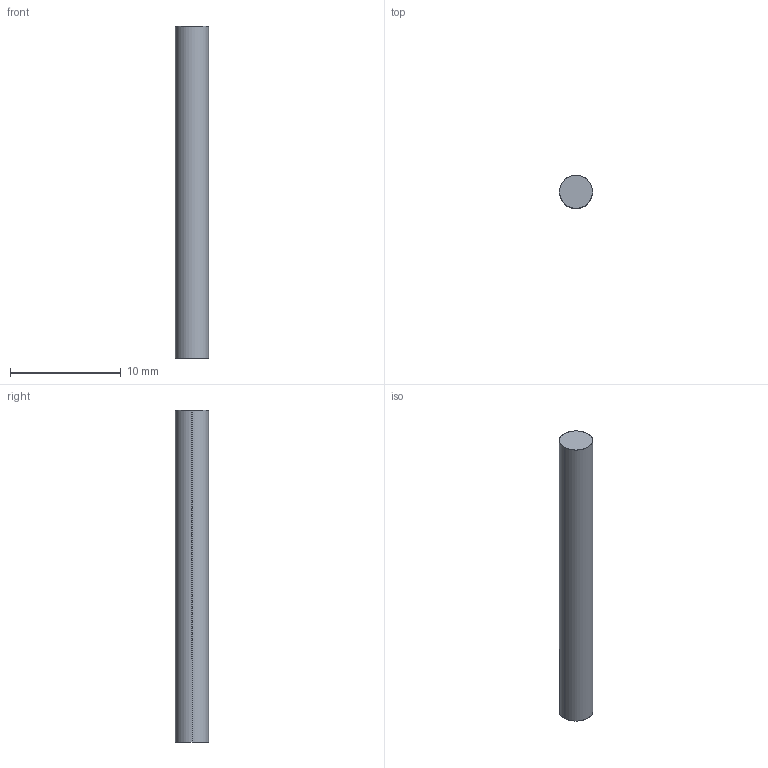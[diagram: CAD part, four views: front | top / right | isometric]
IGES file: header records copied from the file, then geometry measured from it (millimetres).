
Start section: SolidWorks IGES file using analytic representation for surfaces
Global section: file name: C:\Users\AndreBernot\Downloads\K-RACER-L_3D_SW\K-RACER-L_3D_SW\IGS\Axe avant RACER-L.IGS; native system: SolidWorks 2015; preprocessor: SolidWorks 2015; author: AndreBernot; date: 170922.150815; units: millimetre
Bounding box: 3 x 3 x 30 mm (x, y, z)
Surface area: 296.9 mm2 (no closed solid volume)
Topology: 0 solids, 0 shells, 4 faces, 72 edges, 72 vertices
Faces by surface type: revolution 2, bspline 2
